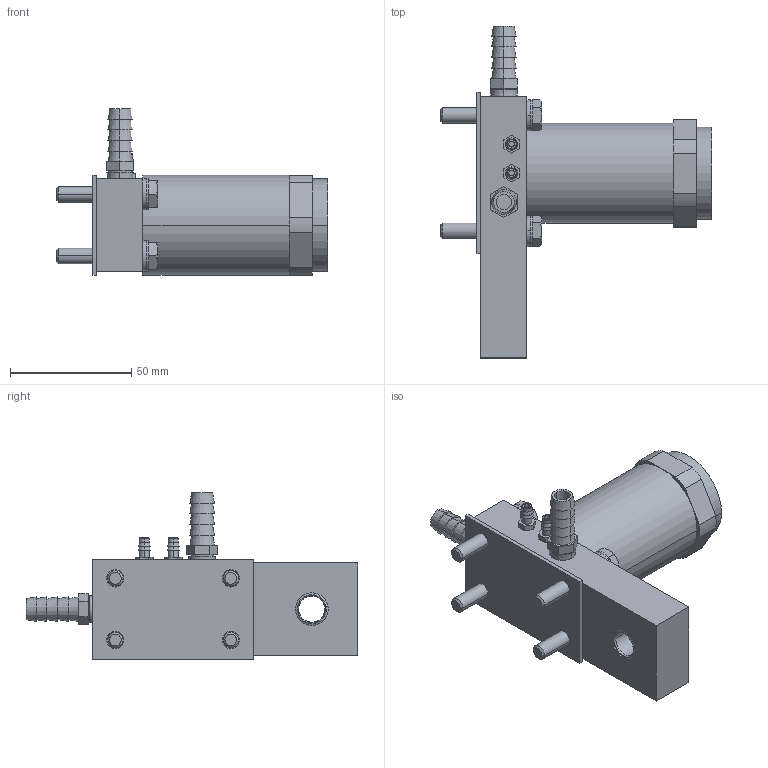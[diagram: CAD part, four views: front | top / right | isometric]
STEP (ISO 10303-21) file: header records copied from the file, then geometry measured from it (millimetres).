
FILE_DESCRIPTION((''),'2;1');
FILE_NAME('XJR4_ASM','2017-08-24T',('jennifer.elliott'),('CenterLine (Windsor) Ltd - Automation Components Division'),'PRO/ENGINEER BY PARAMETRIC TECHNOLOGY CORPORATION, 2015030','PRO/ENGINEER BY PARAMETRIC TECHNOLOGY CORPORATION, 2015030','');
FILE_SCHEMA(('AUTOMOTIVE_DESIGN { 1 0 10303 214 1 1 1 1 }'));
Length unit declared in the file: inch
Products named in the file (23): PRT1371; PRT1372; PRT1373; PRT1374; PRT1375; PRT1376; PRT1377; PRT1378; PRT1379; PRT1380; PRT1381; PRT1382; PRT1383; PRT1384; PRT1385; PRT1386; PRT1387; PRT1388; PRT1389; PRT1390; PRT1391; PRT1392; XJR4_ASM
Assembly tree (22 placements, depth 2):
  XJR4_ASM
    PRT1371
    PRT1372
    PRT1373
    PRT1374
    PRT1375
    PRT1376
    PRT1377
    PRT1378
    PRT1379
    PRT1380
    PRT1381
    PRT1382
    PRT1383
    PRT1384
    PRT1385
    PRT1386
    PRT1387
    PRT1388
    PRT1389
    PRT1390
    PRT1391
    PRT1392
Bounding box: 111.95 x 136.91 x 68.64 mm (x, y, z)
Volume: 188859.4 mm3; surface area: 53713.6 mm2
Topology: 22 solids, 22 shells, 314 faces, 690 edges, 448 vertices
Faces by surface type: plane 134, cylinder 100, cone 72, torus 8
Entity records: 10440 total; most frequent: CARTESIAN_POINT 1816, DIRECTION 1692, ORIENTED_EDGE 1380, AXIS2_PLACEMENT_3D 691, EDGE_CURVE 690, VERTEX_POINT 448, EDGE_LOOP 386, CIRCLE 332
